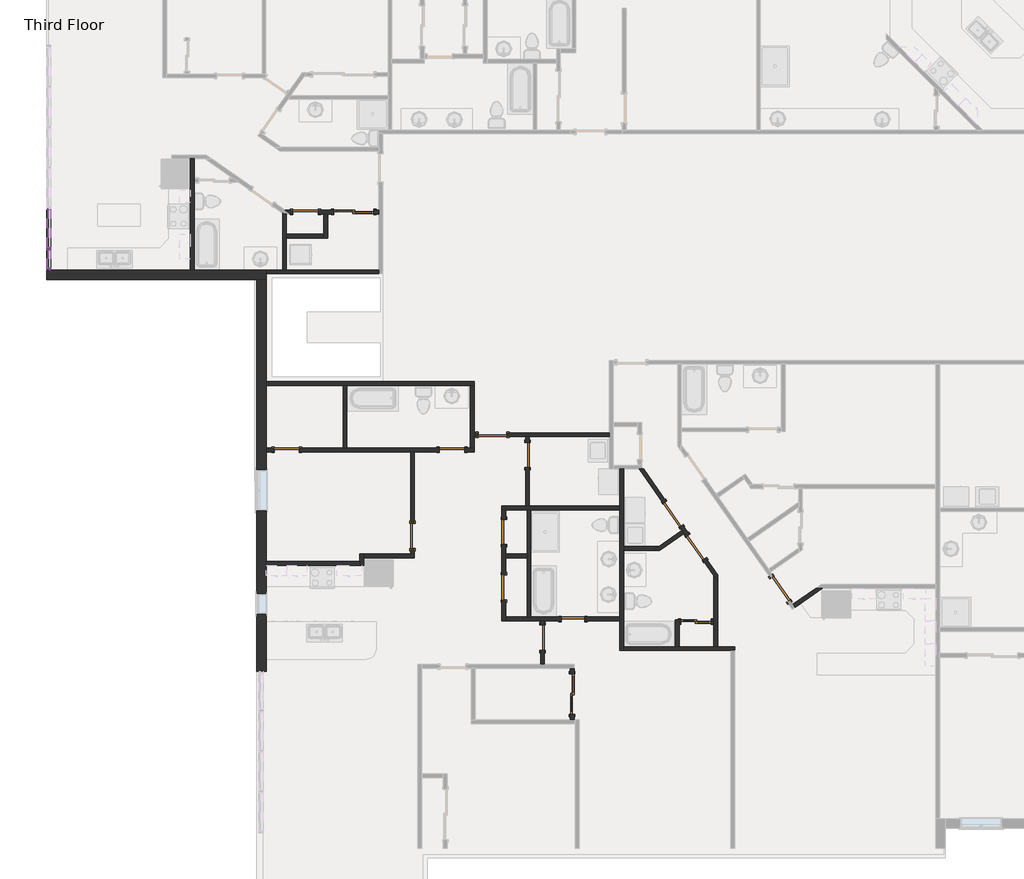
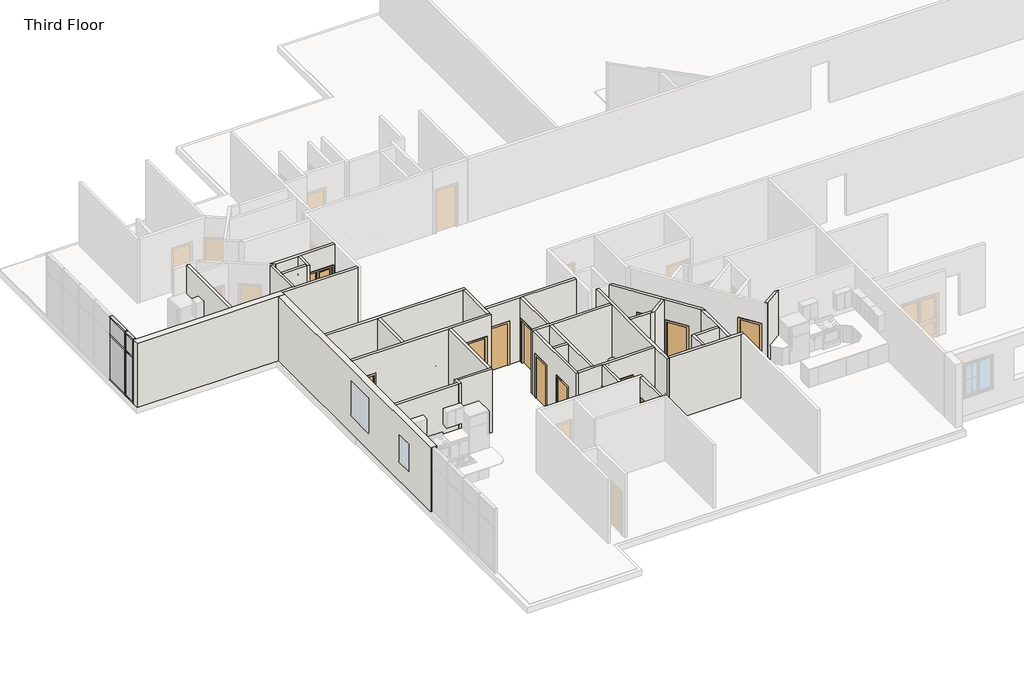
# One storey, part 2 of 17: 34 walls, 16 doors, 10 members, 4 plates.
"""IFC4 building model written with IfcOpenShell, lengths in millimetres."""

from ifc_helpers import new_model, si_unit, frame, origin, place, context, project, spatial, polyline, outline, extrude, faceted_brep, transform, mapped, element, save
from components import door_2d0eeab4, door_d8f5dbb5, door_f2b275c1, door_825b8444, door_c29894e6, door_88c23cd7, door_900f836f, rectangular_mullion_rectangular_mullion_1_fa3625a1, rectangular_mullion_rectangular_mullion_1_7cbf0b94, rectangular_mullion_rectangular_mullion_1_6186cc23, rectangular_mullion_rectangular_mullion_1_049a2e78, rectangular_mullion_rectangular_mullion_1_a50b3cda, rectangular_mullion_rectangular_mullion_1_5cd4c5ac, rectangular_mullion_rectangular_mullion_1_5f94ee87, rectangular_mullion_rectangular_mullion_1_01ab8f87, system_panel_glazed_0ed27d1d, system_panel_glazed_134bacdb, system_panel_glazed_08691960, system_panel_glazed_359e7c1e

model = new_model("IFC4")

# Units and contexts
model_context = context("Model", 3, world=origin())
ifc_project = project(units=[si_unit("LENGTHUNIT", "METRE", prefix="MILLI")], contexts=[model_context])

# Site, building, storey
site = spatial("IfcSite", under=ifc_project)
building = spatial("IfcBuilding", under=site)
storey = spatial("IfcBuildingStorey", under=building, Name="Third Floor", Elevation=6096.0)

# Doors
placement = place(None, origin())
door_shape = door_2d0eeab4(model_context)
element("IfcDoor", 1, ObjectType="Single-Flush : 28\" x 80\"", at=placement, inside=storey, context=model_context, shape_type="MappedRepresentation", body=[
    mapped(door_shape, transform((16422.928371, -12394.3493344, 6096.0), x_axis=(-1.0, 0.0, 0.0), y_axis=(0.0, -1.0, 0.0), z_axis=(0.0, 0.0, 1.0))),
])
door_2_shape = door_d8f5dbb5(model_context)
element("IfcDoor", 2, ObjectType="Single-Flush : 30\" x 80\"", at=placement, inside=storey, context=model_context, shape_type="MappedRepresentation", body=[
    mapped(door_2_shape, transform((12779.9561509, -7293.7212391, 6096.0), x_axis=(1.0, 0.0, 0.0), y_axis=(0.0, 1.0, 0.0), z_axis=(0.0, 0.0, 1.0))),
])
element("IfcDoor", 3, ObjectType="Single-Flush : 30\" x 80\"", at=placement, inside=storey, context=model_context, shape_type="MappedRepresentation", body=[
    mapped(door_2_shape, transform((14339.6754984, -9769.6379528, 6096.0), x_axis=(0.0, 1.0, 0.0), y_axis=(-1.0, 0.0, 0.0), z_axis=(0.0, 0.0, 1.0))),
])
door_3_shape = door_f2b275c1(model_context)
element("IfcDoor", 4, ObjectType="Single-Flush : 30\" x 80\"", at=placement, inside=storey, context=model_context, shape_type="MappedRepresentation", body=[
    mapped(door_3_shape, transform((8359.613642, -116.1297775, 6096.0), x_axis=(-1.0, 0.0, 0.0), y_axis=(0.0, -1.0, 0.0), z_axis=(0.0, 0.0, 1.0))),
])
element("IfcDoor", 5, ObjectType="Single-Flush : 30\" x 80\"", at=placement, inside=storey, context=model_context, shape_type="MappedRepresentation", body=[
    mapped(door_3_shape, transform((15056.22709, -7446.1212391, 6096.0), x_axis=(0.0, 1.0, 0.0), y_axis=(-1.0, 0.0, 0.0), z_axis=(0.0, 0.0, 1.0))),
])
element("IfcDoor", 6, ObjectType="Single-Flush : 30\" x 80\"", at=placement, inside=storey, context=model_context, shape_type="MappedRepresentation", body=[
    mapped(door_3_shape, transform((11582.8058728, -9888.1265712, 6096.0), x_axis=(0.0, -1.0, 0.0), y_axis=(1.0, 0.0, 0.0), z_axis=(0.0, 0.0, 1.0))),
])
element("IfcDoor", 7, ObjectType="Single-Flush : 30\" x 80\"", at=placement, inside=storey, context=model_context, shape_type="MappedRepresentation", body=[
    mapped(door_3_shape, transform((7791.0581159, -7293.7212391, 6096.0), x_axis=(-1.0, 0.0, 0.0), y_axis=(0.0, -1.0, 0.0), z_axis=(0.0, 0.0, 1.0))),
])
element("IfcDoor", 8, ObjectType="Single-Flush : 30\" x 80\"", at=placement, inside=storey, context=model_context, shape_type="MappedRepresentation", body=[
    mapped(door_3_shape, transform((14339.6754984, -11446.0379528, 6096.0), x_axis=(0.0, -1.0, 0.0), y_axis=(1.0, 0.0, 0.0), z_axis=(0.0, 0.0, 1.0))),
])
element("IfcDoor", 9, ObjectType="Single-Flush : 30\" x 80\"", at=placement, inside=storey, context=model_context, shape_type="MappedRepresentation", body=[
    mapped(door_3_shape, transform((15508.528371, -12959.3282576, 6096.0), x_axis=(0.0, 1.0, 0.0), y_axis=(-1.0, 0.0, 0.0), z_axis=(0.0, 0.0, 1.0))),
])
door_4_shape = door_825b8444(model_context)
element("IfcDoor", 10, ObjectType="Single-Flush : 34\" x 80\"", at=placement, inside=storey, context=model_context, shape_type="MappedRepresentation", body=[
    mapped(door_4_shape, transform((19441.5762048, -9236.3622072, 6096.0), x_axis=(0.573576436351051, -0.8191520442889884, 0.0), y_axis=(0.8191520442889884, 0.573576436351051, 0.0), z_axis=(0.0, 0.0, 1.0))),
])
door_5_shape = door_c29894e6(model_context)
element("IfcDoor", 11, ObjectType="Single-Flush : 34\" x 80\"", at=placement, inside=storey, context=model_context, shape_type="MappedRepresentation", body=[
    mapped(door_5_shape, transform((22679.8832205, -11498.1076976, 6096.0), x_axis=(0.5735764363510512, -0.8191520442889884, 0.0), y_axis=(0.8191520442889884, 0.5735764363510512, 0.0), z_axis=(0.0, 0.0, 1.0))),
])
element("IfcDoor", 12, ObjectType="Single-Flush : 34\" x 80\"", at=placement, inside=storey, context=model_context, shape_type="MappedRepresentation", body=[
    mapped(door_5_shape, transform((20140.880596, -10235.0723796, 6096.0), x_axis=(-0.573576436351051, 0.8191520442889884, 0.0), y_axis=(-0.8191520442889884, -0.573576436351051, 0.0), z_axis=(0.0, 0.0, 1.0))),
])
element("IfcDoor", 13, ObjectType="Single-Flush : 34\" x 80\"", at=placement, inside=storey, context=model_context, shape_type="MappedRepresentation", body=[
    mapped(door_5_shape, transform((13999.1561509, -6836.5212391, 6096.0), x_axis=(-1.0, 0.0, 0.0), y_axis=(0.0, -1.0, 0.0), z_axis=(0.0, 0.0, 1.0))),
])
door_6_shape = door_88c23cd7(model_context)
element("IfcDoor", 14, ObjectType="Sliding-Closet : 36\" x 80\"", at=placement, inside=storey, context=model_context, shape_type="MappedRepresentation", body=[
    mapped(door_6_shape, transform((20139.3524328, -12607.5204597, 6096.0), x_axis=(1.0, 0.0, 0.0), y_axis=(0.0, 1.0, 0.0), z_axis=(0.0, 0.0, 1.0))),
])
door_7_shape = door_900f836f(model_context)
element("IfcDoor", 15, ObjectType="Sliding-Closet : 48\" x 80\"", at=placement, inside=storey, context=model_context, shape_type="MappedRepresentation", body=[
    mapped(door_7_shape, transform((9813.633999, -243.1297775, 6096.0), x_axis=(1.0, 0.0, 0.0), y_axis=(0.0, 1.0, 0.0), z_axis=(0.0, 0.0, 1.0))),
])
element("IfcDoor", 16, ObjectType="Sliding-Closet : 48\" x 80\"", at=placement, inside=storey, context=model_context, shape_type="MappedRepresentation", body=[
    mapped(door_7_shape, transform((16274.860372, -14663.3427377, 6096.0), x_axis=(0.0, -1.0, 0.0), y_axis=(1.0, 0.0, 0.0), z_axis=(0.0, 0.0, 1.0))),
])

# Members
rectangular_mullion_rectangular_mullion_1_shape = rectangular_mullion_rectangular_mullion_1_fa3625a1(model_context)
element("IfcMember", 17, ObjectType="Rectangular Mullion : Rectangular Mullion 1", at=placement, inside=storey, context=model_context, shape_type="MappedRepresentation", body=[
    mapped(rectangular_mullion_rectangular_mullion_1_shape, transform((612.3831159, -1182.2572154, 9144.0), x_axis=(0.0, 0.0, 1.0), y_axis=(-1.0, 0.0, 0.0), z_axis=(0.0, -1.0, 0.0))),
])
element("IfcMember", 18, ObjectType="Rectangular Mullion : Rectangular Mullion 1", at=placement, inside=storey, context=model_context, shape_type="MappedRepresentation", body=[
    mapped(rectangular_mullion_rectangular_mullion_1_shape, transform((612.3831159, -26.5572154, 6096.0), x_axis=(0.0, 0.0, -1.0), y_axis=(-1.0, 0.0, 0.0), z_axis=(0.0, 1.0, 0.0))),
])
rectangular_mullion_rectangular_mullion_1_2_shape = rectangular_mullion_rectangular_mullion_1_7cbf0b94(model_context)
element("IfcMember", 19, ObjectType="Rectangular Mullion : Rectangular Mullion 1", at=placement, inside=storey, context=model_context, shape_type="MappedRepresentation", body=[
    mapped(rectangular_mullion_rectangular_mullion_1_2_shape, transform((612.3831159, -1182.2572154, 8261.35), x_axis=(0.0, 0.0, 1.0), y_axis=(-1.0, 0.0, 0.0), z_axis=(0.0, -1.0, 0.0))),
])
rectangular_mullion_rectangular_mullion_1_3_shape = rectangular_mullion_rectangular_mullion_1_6186cc23(model_context)
element("IfcMember", 20, ObjectType="Rectangular Mullion : Rectangular Mullion 1", at=placement, inside=storey, context=model_context, shape_type="MappedRepresentation", body=[
    mapped(rectangular_mullion_rectangular_mullion_1_3_shape, transform((612.3831159, -1214.0072154, 6096.0), x_axis=(0.0, -1.0, 0.0), y_axis=(-1.0, 0.0, 0.0), z_axis=(0.0, 0.0, -1.0))),
])
rectangular_mullion_rectangular_mullion_1_4_shape = rectangular_mullion_rectangular_mullion_1_049a2e78(model_context)
element("IfcMember", 21, ObjectType="Rectangular Mullion : Rectangular Mullion 1", at=placement, inside=storey, context=model_context, shape_type="MappedRepresentation", body=[
    mapped(rectangular_mullion_rectangular_mullion_1_4_shape, transform((612.3831159, -1214.0072154, 8261.35), x_axis=(0.0, -1.0, 0.0), y_axis=(-1.0, 0.0, 0.0), z_axis=(0.0, 0.0, -1.0))),
])
rectangular_mullion_rectangular_mullion_1_5_shape = rectangular_mullion_rectangular_mullion_1_a50b3cda(model_context)
element("IfcMember", 22, ObjectType="Rectangular Mullion : Rectangular Mullion 1", at=placement, inside=storey, context=model_context, shape_type="MappedRepresentation", body=[
    mapped(rectangular_mullion_rectangular_mullion_1_5_shape, transform((612.3831159, -1864.031369, 6096.0), x_axis=(0.0, -1.0, 0.0), y_axis=(-1.0, 0.0, 0.0), z_axis=(0.0, 0.0, -1.0))),
])
rectangular_mullion_rectangular_mullion_1_6_shape = rectangular_mullion_rectangular_mullion_1_5cd4c5ac(model_context)
element("IfcMember", 23, ObjectType="Rectangular Mullion : Rectangular Mullion 1", at=placement, inside=storey, context=model_context, shape_type="MappedRepresentation", body=[
    mapped(rectangular_mullion_rectangular_mullion_1_6_shape, transform((612.3831159, -1864.031369, 8261.35), x_axis=(0.0, -1.0, 0.0), y_axis=(-1.0, 0.0, 0.0), z_axis=(0.0, 0.0, -1.0))),
])
rectangular_mullion_rectangular_mullion_1_7_shape = rectangular_mullion_rectangular_mullion_1_5f94ee87(model_context)
element("IfcMember", 24, ObjectType="Rectangular Mullion : Rectangular Mullion 1", at=placement, inside=storey, context=model_context, shape_type="MappedRepresentation", body=[
    mapped(rectangular_mullion_rectangular_mullion_1_7_shape, transform((612.3831159, -1800.531369, 9144.0), x_axis=(0.0, 0.0, 1.0), y_axis=(-1.0, 0.0, 0.0), z_axis=(0.0, -1.0, 0.0))),
])
element("IfcMember", 25, ObjectType="Rectangular Mullion : Rectangular Mullion 1", at=placement, inside=storey, context=model_context, shape_type="MappedRepresentation", body=[
    mapped(rectangular_mullion_rectangular_mullion_1_7_shape, transform((612.3831159, -1245.7572154, 6096.0), x_axis=(0.0, 0.0, -1.0), y_axis=(-1.0, 0.0, 0.0), z_axis=(0.0, 1.0, 0.0))),
])
rectangular_mullion_rectangular_mullion_1_8_shape = rectangular_mullion_rectangular_mullion_1_01ab8f87(model_context)
element("IfcMember", 26, ObjectType="Rectangular Mullion : Rectangular Mullion 1", at=placement, inside=storey, context=model_context, shape_type="MappedRepresentation", body=[
    mapped(rectangular_mullion_rectangular_mullion_1_8_shape, transform((612.3831159, -1800.531369, 8261.35), x_axis=(0.0, 0.0, 1.0), y_axis=(-1.0, 0.0, 0.0), z_axis=(0.0, -1.0, 0.0))),
])

# Plates
system_panel_glazed_shape = system_panel_glazed_0ed27d1d(model_context)
element("IfcPlate", 27, ObjectType="System Panel : Glazed", at=placement, inside=storey, context=model_context, shape_type="MappedRepresentation", body=[
    mapped(system_panel_glazed_shape, transform((612.3831159, -604.4072154, 6159.5), x_axis=(0.0, -1.0, 0.0), y_axis=(1.0, 0.0, 0.0), z_axis=(0.0, 0.0, 1.0))),
])
system_panel_glazed_2_shape = system_panel_glazed_134bacdb(model_context)
element("IfcPlate", 28, ObjectType="System Panel : Glazed", at=placement, inside=storey, context=model_context, shape_type="MappedRepresentation", body=[
    mapped(system_panel_glazed_2_shape, transform((612.3831159, -604.4072154, 8293.1), x_axis=(0.0, -1.0, 0.0), y_axis=(1.0, 0.0, 0.0), z_axis=(0.0, 0.0, 1.0))),
])
system_panel_glazed_3_shape = system_panel_glazed_08691960(model_context)
element("IfcPlate", 29, ObjectType="System Panel : Glazed", at=placement, inside=storey, context=model_context, shape_type="MappedRepresentation", body=[
    mapped(system_panel_glazed_3_shape, transform((612.3831159, -1523.1442922, 6159.5), x_axis=(0.0, -1.0, 0.0), y_axis=(1.0, 0.0, 0.0), z_axis=(0.0, 0.0, 1.0))),
])
system_panel_glazed_4_shape = system_panel_glazed_359e7c1e(model_context)
element("IfcPlate", 30, ObjectType="System Panel : Glazed", at=placement, inside=storey, context=model_context, shape_type="MappedRepresentation", body=[
    mapped(system_panel_glazed_4_shape, transform((612.3831159, -1523.1442922, 8293.1), x_axis=(0.0, -1.0, 0.0), y_axis=(1.0, 0.0, 0.0), z_axis=(0.0, 0.0, 1.0))),
])

# Walls
element("IfcWall", 31, ObjectType="Exterior - Brick on Wood Stud", at=placement, inside=storey, context=model_context, shape_type="Brep", body=[
    faceted_brep([(7170.3456159, -13981.3871067, 6096.0), (7170.3456159, -10775.0993344, 6096.0), (7170.3456159, -10660.7993344, 6096.0), (7170.3456159, -7350.8712391, 6096.0), (7170.3456159, -7236.5712391, 6096.0), (7170.3456159, -5351.7371067, 6096.0), (7170.3456159, -5237.4371067, 6096.0), (7170.3456159, -2146.606369, 6096.0), (7170.3456159, -2146.606369, 9144.0), (7170.3456159, -5237.4371067, 9144.0), (7170.3456159, -5351.7371067, 9144.0), (7170.3456159, -7236.5712391, 9144.0), (7170.3456159, -7350.8712391, 9144.0), (7170.3456159, -10660.7993344, 9144.0), (7170.3456159, -10775.0993344, 9144.0), (7170.3456159, -13981.3871067, 9144.0), (7170.3456159, -7903.3212391, 8534.4), (7170.3456159, -7903.3212391, 7010.4), (7170.3456159, -9122.5212391, 7010.4), (7170.3456159, -9122.5212391, 8534.4), (7170.3456159, -11632.3493344, 8229.6), (7170.3456159, -11632.3493344, 7010.4), (7170.3456159, -12241.9493344, 7010.4), (7170.3456159, -12241.9493344, 8229.6), (6887.7706159, -13981.3871067, 6096.0), (6887.7706159, -13981.3871067, 9144.0), (6887.7706159, -2146.606369, 9144.0), (6887.7706159, -2146.606369, 6096.0), (6887.7706159, -7903.3212391, 8534.4), (6887.7706159, -9122.5212391, 8534.4), (6887.7706159, -9122.5212391, 7010.4), (6887.7706159, -7903.3212391, 7010.4), (6887.7706159, -11632.3493344, 8229.6), (6887.7706159, -12241.9493344, 8229.6), (6887.7706159, -12241.9493344, 7010.4), (6887.7706159, -11632.3493344, 7010.4)], [[[0, 1, 2, 3, 4, 5, 6, 7, 8, 9, 10, 11, 12, 13, 14, 15], [16, 17, 18, 19], [20, 21, 22, 23]], [[24, 25, 26, 27], [28, 29, 30, 31], [32, 33, 34, 35]], [[7, 6, 5, 4, 3, 2, 1, 0, 24, 27]], [[15, 14, 13, 12, 11, 10, 9, 8, 26, 25]], [[0, 15, 25, 24]], [[17, 16, 28, 31]], [[18, 17, 31, 30]], [[19, 18, 30, 29]], [[16, 19, 29, 28]], [[21, 20, 32, 35]], [[22, 21, 35, 34]], [[23, 22, 34, 33]], [[20, 23, 33, 32]], [[8, 7, 27, 26]]]),
])
element("IfcWall", 32, ObjectType="Exterior - Brick on Wood Stud", at=placement, inside=storey, context=model_context, shape_type="Brep", body=[
    faceted_brep([(548.8831159, -2146.606369, 6096.0), (6887.7706159, -2146.606369, 6096.0), (7170.3456159, -2146.606369, 6096.0), (7170.3456159, -2146.606369, 9144.0), (6887.7706159, -2146.606369, 9144.0), (548.8831159, -2146.606369, 9144.0), (548.8831159, -1864.031369, 6096.0), (548.8831159, -1864.031369, 9144.0), (4880.7003923, -1864.031369, 9144.0), (4995.0003923, -1864.031369, 9144.0), (7170.3456159, -1864.031369, 9144.0), (7170.3456159, -1864.031369, 6096.0), (4995.0003923, -1864.031369, 6096.0), (4880.7003923, -1864.031369, 6096.0), (7170.3456159, -1978.331369, 6096.0), (7170.3456159, -1978.331369, 9144.0)], [[[0, 1, 2, 3, 4, 5]], [[6, 7, 8, 9, 10, 11, 12, 13]], [[2, 1, 0, 6, 13, 12, 11, 14]], [[5, 4, 3, 15, 10, 9, 8, 7]], [[0, 5, 7, 6]], [[3, 2, 14, 11, 10, 15]]]),
])
element("IfcWall", 33, ObjectType="Interior - 4 1/2\" Partition", at=placement, inside=storey, context=model_context, shape_type="Brep", body=[
    faceted_brep([(4995.0003923, -1864.031369, 6096.0), (4995.0003923, 782.2685137, 6096.0), (4995.0003923, 896.5685137, 6096.0), (4995.0003923, 1493.4685137, 6096.0), (4995.0003923, 1493.4685137, 9144.0), (4995.0003923, 896.5685137, 9144.0), (4995.0003923, 782.2685137, 9144.0), (4995.0003923, -1864.031369, 9144.0), (4880.7003923, -1864.031369, 6096.0), (4880.7003923, -1864.031369, 9144.0), (4880.7003923, 1493.4685137, 9144.0), (4880.7003923, 1493.4685137, 6096.0)], [[[0, 1, 2, 3, 4, 5, 6, 7]], [[8, 9, 10, 11]], [[3, 2, 1, 0, 8, 11]], [[7, 6, 5, 4, 10, 9]], [[0, 7, 9, 8]], [[4, 3, 11, 10]]]),
])
element("IfcWall", 34, ObjectType="Interior - 4 1/2\" Partition", at=placement, inside=storey, context=model_context, shape_type="Brep", body=[
    faceted_brep([(10569.283999, -173.2797775, 9144.0), (9026.363642, -173.2797775, 9144.0), (8912.063642, -173.2797775, 9144.0), (7905.870285, -173.2797775, 9144.0), (7905.870285, -173.2797775, 6096.0), (7978.613642, -173.2797775, 6096.0), (7978.613642, -173.2797775, 8128.0), (8740.613642, -173.2797775, 8128.0), (8740.613642, -173.2797775, 6096.0), (8912.063642, -173.2797775, 6096.0), (9026.363642, -173.2797775, 6096.0), (9204.033999, -173.2797775, 6096.0), (9204.033999, -173.2797775, 8128.0), (10423.233999, -173.2797775, 8128.0), (10423.233999, -173.2797775, 6096.0), (10569.283999, -173.2797775, 6096.0), (7742.6329678, -58.9797775, 9144.0), (10569.283999, -58.9797775, 9144.0), (10569.283999, -58.9797775, 6096.0), (10423.233999, -58.9797775, 6096.0), (10423.233999, -58.9797775, 8128.0), (9204.033999, -58.9797775, 8128.0), (9204.033999, -58.9797775, 6096.0), (8740.613642, -58.9797775, 6096.0), (8740.613642, -58.9797775, 8128.0), (7978.613642, -58.9797775, 8128.0), (7978.613642, -58.9797775, 6096.0), (7742.6329678, -58.9797775, 6096.0)], [[[0, 1, 2, 3, 4, 5, 6, 7, 8, 9, 10, 11, 12, 13, 14, 15]], [[16, 17, 18, 19, 20, 21, 22, 23, 24, 25, 26, 27]], [[26, 5, 4, 27]], [[8, 23, 22, 11, 10, 9]], [[18, 15, 14, 19]], [[3, 2, 1, 0, 17, 16]], [[6, 5, 26, 25]], [[7, 6, 25, 24]], [[8, 7, 24, 23]], [[21, 12, 11, 22]], [[12, 21, 20, 13]], [[13, 20, 19, 14]], [[4, 3, 16, 27]], [[0, 15, 18, 17]]]),
])
element("IfcWall", 35, ObjectType="Interior - 4 1/2\" Partition", at=placement, inside=storey, context=model_context, shape_type="Brep", body=[
    faceted_brep([(7667.463642, -145.8801844, 6096.0), (7667.463642, -1864.031369, 6096.0), (7667.463642, -1864.031369, 9144.0), (7667.463642, -145.8801844, 9144.0), (7781.763642, -173.2797775, 6096.0), (7781.763642, -173.2797775, 9144.0), (7781.763642, -783.946226, 9144.0), (7781.763642, -898.246226, 9144.0), (7781.763642, -1864.031369, 9144.0), (7781.763642, -1864.031369, 6096.0), (7781.763642, -898.246226, 6096.0), (7781.763642, -783.946226, 6096.0), (7706.5943163, -173.2797775, 6096.0), (7706.5943163, -173.2797775, 9144.0)], [[[0, 1, 2, 3]], [[4, 5, 6, 7, 8, 9, 10, 11]], [[1, 0, 12, 4, 11, 10, 9]], [[3, 2, 8, 7, 6, 5, 13]], [[2, 1, 9, 8]], [[0, 3, 13, 12]], [[13, 5, 4, 12]]]),
])
element("IfcWall", 36, ObjectType="Interior - 4 1/2\" Partition", at=placement, inside=storey, context=model_context, shape_type="Brep", body=[
    faceted_brep([(8912.063642, -173.2797775, 6096.0), (8912.063642, -783.946226, 6096.0), (8912.063642, -898.246226, 6096.0), (8912.063642, -898.246226, 9144.0), (8912.063642, -783.946226, 9144.0), (8912.063642, -173.2797775, 9144.0), (9026.363642, -173.2797775, 6096.0), (9026.363642, -173.2797775, 9144.0), (9026.363642, -898.246226, 9144.0), (9026.363642, -898.246226, 6096.0)], [[[0, 1, 2, 3, 4, 5]], [[6, 7, 8, 9]], [[2, 1, 0, 6, 9]], [[5, 4, 3, 8, 7]], [[3, 2, 9, 8]], [[0, 5, 7, 6]]]),
])
element("IfcWall", 37, ObjectType="Interior - 4 1/2\" Partition", at=placement, inside=storey, context=model_context, shape_type="SweptSolid", body=[
    extrude(outline(polyline([(7781.763642, -783.946226), (8912.063642, -783.946226), (8912.063642, -898.246226), (7781.763642, -898.246226), (7781.763642, -783.946226)])), frame((0.0, 0.0, 6096.0), z_axis=(0.0, 0.0, 1.0), x_axis=(1.0, 0.0, 0.0)), (0.0, 0.0, 1.0), 3048.0),
])
element("IfcWall", 38, ObjectType="Interior - 4 1/2\" Partition", at=placement, inside=storey, context=model_context, shape_type="Brep", body=[
    faceted_brep([(7170.3456159, -5351.7371067, 6096.0), (9494.3397027, -5351.7371067, 6096.0), (9608.6397027, -5351.7371067, 6096.0), (13332.4061509, -5351.7371067, 6096.0), (13446.7061509, -5351.7371067, 6096.0), (13446.7061509, -5351.7371067, 9144.0), (13332.4061509, -5351.7371067, 9144.0), (9608.6397027, -5351.7371067, 9144.0), (9494.3397027, -5351.7371067, 9144.0), (7170.3456159, -5351.7371067, 9144.0), (7170.3456159, -5237.4371067, 6096.0), (7170.3456159, -5237.4371067, 9144.0), (13446.7061509, -5237.4371067, 9144.0), (13446.7061509, -5237.4371067, 6096.0)], [[[0, 1, 2, 3, 4, 5, 6, 7, 8, 9]], [[10, 11, 12, 13]], [[4, 3, 2, 1, 0, 10, 13]], [[9, 8, 7, 6, 5, 12, 11]], [[5, 4, 13, 12]], [[0, 9, 11, 10]]]),
])
element("IfcWall", 39, ObjectType="Interior - 4 1/2\" Partition", at=placement, inside=storey, context=model_context, shape_type="Brep", body=[
    faceted_brep([(13332.4061509, -5351.7371067, 6096.0), (13332.4061509, -7236.5712391, 6096.0), (13332.4061509, -7236.5712391, 9144.0), (13332.4061509, -5351.7371067, 9144.0), (13446.7061509, -5351.7371067, 6096.0), (13446.7061509, -5351.7371067, 9144.0), (13446.7061509, -6779.3712391, 9144.0), (13446.7061509, -6893.6712391, 9144.0), (13446.7061509, -7236.5712391, 9144.0), (13446.7061509, -7236.5712391, 6096.0), (13446.7061509, -6893.6712391, 6096.0), (13446.7061509, -6779.3712391, 6096.0)], [[[0, 1, 2, 3]], [[4, 5, 6, 7, 8, 9, 10, 11]], [[1, 0, 4, 11, 10, 9]], [[3, 2, 8, 7, 6, 5]], [[2, 1, 9, 8]], [[0, 3, 5, 4]]]),
])
element("IfcWall", 40, ObjectType="Interior - 4 1/2\" Partition", at=placement, inside=storey, context=model_context, shape_type="Brep", body=[
    faceted_brep([(13446.7061509, -6893.6712391, 6096.0), (13567.3561509, -6893.6712391, 6096.0), (13567.3561509, -6893.6712391, 8128.0), (14430.9561509, -6893.6712391, 8128.0), (14430.9561509, -6893.6712391, 6096.0), (14999.07709, -6893.6712391, 6096.0), (15113.37709, -6893.6712391, 6096.0), (17521.3916991, -6893.6712391, 6096.0), (17521.3916991, -6893.6712391, 9144.0), (15113.37709, -6893.6712391, 9144.0), (14999.07709, -6893.6712391, 9144.0), (13446.7061509, -6893.6712391, 9144.0), (13567.3561509, -6779.3712391, 8128.0), (13567.3561509, -6779.3712391, 6096.0), (13446.7061509, -6779.3712391, 6096.0), (13446.7061509, -6779.3712391, 9144.0), (17521.3916991, -6779.3712391, 9144.0), (17521.3916991, -6779.3712391, 6096.0), (14430.9561509, -6779.3712391, 6096.0), (14430.9561509, -6779.3712391, 8128.0)], [[[0, 1, 2, 3, 4, 5, 6, 7, 8, 9, 10, 11]], [[12, 13, 14, 15, 16, 17, 18, 19]], [[18, 17, 7, 6, 5, 4]], [[14, 13, 1, 0]], [[11, 10, 9, 8, 16, 15]], [[2, 1, 13, 12]], [[3, 2, 12, 19]], [[4, 3, 19, 18]], [[8, 7, 17, 16]], [[0, 11, 15, 14]]]),
])
element("IfcWall", 41, ObjectType="Interior - 4 1/2\" Partition", at=placement, inside=storey, context=model_context, shape_type="Brep", body=[
    faceted_brep([(17837.7191338, -7873.4719726, 6096.0), (17837.7191338, -8984.3993344, 6096.0), (17837.7191338, -9098.6993344, 6096.0), (17837.7191338, -12337.1993344, 6096.0), (17837.7191338, -12451.4993344, 6096.0), (17837.7191338, -13350.4704597, 6096.0), (17837.7191338, -13350.4704597, 9144.0), (17837.7191338, -12451.4993344, 9144.0), (17837.7191338, -12337.1993344, 9144.0), (17837.7191338, -9098.6993344, 9144.0), (17837.7191338, -8984.3993344, 9144.0), (17837.7191338, -7873.4719726, 9144.0), (17952.0191338, -7873.4719726, 6096.0), (17952.0191338, -7873.4719726, 9144.0), (17952.0191338, -10214.0460393, 9144.0), (17952.0191338, -10328.3460393, 9144.0), (17952.0191338, -13236.1704597, 9144.0), (17952.0191338, -13350.4704597, 9144.0), (17952.0191338, -13350.4704597, 6096.0), (17952.0191338, -13236.1704597, 6096.0), (17952.0191338, -10328.3460393, 6096.0), (17952.0191338, -10214.0460393, 6096.0)], [[[0, 1, 2, 3, 4, 5, 6, 7, 8, 9, 10, 11]], [[12, 13, 14, 15, 16, 17, 18, 19, 20, 21]], [[5, 4, 3, 2, 1, 0, 12, 21, 20, 19, 18]], [[11, 10, 9, 8, 7, 6, 17, 16, 15, 14, 13]], [[6, 5, 18, 17]], [[0, 11, 13, 12]]]),
])
element("IfcWall", 42, ObjectType="Interior - 4 1/2\" Partition", at=placement, inside=storey, context=model_context, shape_type="Brep", body=[
    faceted_brep([(17952.0191338, -13350.4704597, 6096.0), (21185.6615862, -13350.4704597, 6096.0), (21299.9615862, -13350.4704597, 6096.0), (21299.9615862, -13350.4704597, 9144.0), (21185.6615862, -13350.4704597, 9144.0), (17952.0191338, -13350.4704597, 9144.0), (17952.0191338, -13236.1704597, 6096.0), (17952.0191338, -13236.1704597, 9144.0), (19511.69036, -13236.1704597, 9144.0), (19625.99036, -13236.1704597, 9144.0), (20678.1145056, -13236.1704597, 9144.0), (20792.4145056, -13236.1704597, 9144.0), (21299.9615862, -13236.1704597, 9144.0), (21299.9615862, -13236.1704597, 6096.0), (20792.4145056, -13236.1704597, 6096.0), (20678.1145056, -13236.1704597, 6096.0), (19625.99036, -13236.1704597, 6096.0), (19511.69036, -13236.1704597, 6096.0)], [[[0, 1, 2, 3, 4, 5]], [[6, 7, 8, 9, 10, 11, 12, 13, 14, 15, 16, 17]], [[2, 1, 0, 6, 17, 16, 15, 14, 13]], [[5, 4, 3, 12, 11, 10, 9, 8, 7]], [[3, 2, 13, 12]], [[0, 5, 7, 6]]]),
])
element("IfcWall", 43, ObjectType="Interior - 4 1/2\" Partition", at=placement, inside=storey, context=model_context, shape_type="SweptSolid", body=[
    extrude(outline(polyline([(-15272.9427377, 8128.0), (-15272.9427377, 6096.0), (-15440.4282946, 6096.0), (-15440.4282946, 9144.0), (-13886.2571807, 9144.0), (-13886.2571807, 6096.0), (-14053.7427377, 6096.0), (-14053.7427377, 8128.0), (-15272.9427377, 8128.0)])), frame((16344.710372, 0.0, 0.0), z_axis=(1.0, 0.0, 0.0), x_axis=(0.0, 1.0, 0.0)), (0.0, 0.0, 1.0), 114.3),
])
element("IfcWall", 44, ObjectType="Interior - 4 1/2\" Partition", at=placement, inside=storey, context=model_context, shape_type="Brep", body=[
    faceted_brep([(17837.7191338, -8984.3993344, 6096.0), (15113.37709, -8984.3993344, 6096.0), (14999.07709, -8984.3993344, 6096.0), (14282.5254984, -8984.3993344, 6096.0), (14282.5254984, -8984.3993344, 9144.0), (14999.07709, -8984.3993344, 9144.0), (15113.37709, -8984.3993344, 9144.0), (17837.7191338, -8984.3993344, 9144.0), (17837.7191338, -9098.6993344, 6096.0), (17837.7191338, -9098.6993344, 9144.0), (15157.82709, -9098.6993344, 9144.0), (15043.52709, -9098.6993344, 9144.0), (14396.8254984, -9098.6993344, 9144.0), (14282.5254984, -9098.6993344, 9144.0), (14282.5254984, -9098.6993344, 6096.0), (14396.8254984, -9098.6993344, 6096.0), (15043.52709, -9098.6993344, 6096.0), (15157.82709, -9098.6993344, 6096.0)], [[[0, 1, 2, 3, 4, 5, 6, 7]], [[8, 9, 10, 11, 12, 13, 14, 15, 16, 17]], [[3, 2, 1, 0, 8, 17, 16, 15, 14]], [[7, 6, 5, 4, 13, 12, 11, 10, 9]], [[4, 3, 14, 13]], [[0, 7, 9, 8]]]),
])
element("IfcWall", 45, ObjectType="Interior - 4 1/2\" Partition", at=placement, inside=storey, context=model_context, shape_type="SweptSolid", body=[
    extrude(outline(polyline([(-6893.6712391, 6096.0), (-7065.1212391, 6096.0), (-7065.1212391, 8128.0), (-7827.1212391, 8128.0), (-7827.1212391, 6096.0), (-8984.3993344, 6096.0), (-8984.3993344, 9144.0), (-6893.6712391, 9144.0), (-6893.6712391, 6096.0)])), frame((14999.07709, 0.0, 0.0), z_axis=(1.0, 0.0, 0.0), x_axis=(0.0, 1.0, 0.0)), (0.0, 0.0, 1.0), 114.3),
])
element("IfcWall", 46, ObjectType="Interior - 4 1/2\" Partition", at=placement, inside=storey, context=model_context, shape_type="Brep", body=[
    faceted_brep([(14282.5254984, -11827.0379528, 8128.0), (14282.5254984, -11827.0379528, 6096.0), (14282.5254984, -12451.4993344, 6096.0), (14282.5254984, -12451.4993344, 9144.0), (14282.5254984, -9098.6993344, 9144.0), (14282.5254984, -9098.6993344, 6096.0), (14282.5254984, -9388.6379528, 6096.0), (14282.5254984, -9388.6379528, 8128.0), (14282.5254984, -10150.6379528, 8128.0), (14282.5254984, -10150.6379528, 6096.0), (14282.5254984, -11065.0379528, 6096.0), (14282.5254984, -11065.0379528, 8128.0), (14396.8254984, -12451.4993344, 6096.0), (14396.8254984, -12337.1993344, 6096.0), (14396.8254984, -11827.0379528, 6096.0), (14396.8254984, -11827.0379528, 8128.0), (14396.8254984, -11065.0379528, 8128.0), (14396.8254984, -11065.0379528, 6096.0), (14396.8254984, -10554.8765712, 6096.0), (14396.8254984, -10440.5765712, 6096.0), (14396.8254984, -10150.6379528, 6096.0), (14396.8254984, -10150.6379528, 8128.0), (14396.8254984, -9388.6379528, 8128.0), (14396.8254984, -9388.6379528, 6096.0), (14396.8254984, -9098.6993344, 6096.0), (14396.8254984, -9098.6993344, 9144.0), (14396.8254984, -10440.5765712, 9144.0), (14396.8254984, -10554.8765712, 9144.0), (14396.8254984, -12337.1993344, 9144.0), (14396.8254984, -12451.4993344, 9144.0)], [[[0, 1, 2, 3, 4, 5, 6, 7, 8, 9, 10, 11]], [[12, 13, 14, 15, 16, 17, 18, 19, 20, 21, 22, 23, 24, 25, 26, 27, 28, 29]], [[24, 23, 6, 5]], [[10, 9, 20, 19, 18, 17]], [[2, 1, 14, 13, 12]], [[4, 3, 29, 28, 27, 26, 25]], [[7, 6, 23, 22]], [[8, 7, 22, 21]], [[9, 8, 21, 20]], [[15, 14, 1, 0]], [[16, 15, 0, 11]], [[17, 16, 11, 10]], [[3, 2, 12, 29]], [[5, 4, 25, 24]]]),
])
element("IfcWall", 47, ObjectType="Interior - 4 1/2\" Partition", at=placement, inside=storey, context=model_context, shape_type="Brep", body=[
    faceted_brep([(14396.8254984, -12451.4993344, 6096.0), (15451.378371, -12451.4993344, 6096.0), (15565.678371, -12451.4993344, 6096.0), (16067.328371, -12451.4993344, 6096.0), (16067.328371, -12451.4993344, 8128.0), (16778.528371, -12451.4993344, 8128.0), (16778.528371, -12451.4993344, 6096.0), (17837.7191338, -12451.4993344, 6096.0), (17837.7191338, -12451.4993344, 9144.0), (15565.678371, -12451.4993344, 9144.0), (15451.378371, -12451.4993344, 9144.0), (14396.8254984, -12451.4993344, 9144.0), (16067.328371, -12337.1993344, 8128.0), (16067.328371, -12337.1993344, 6096.0), (15157.82709, -12337.1993344, 6096.0), (15043.52709, -12337.1993344, 6096.0), (14396.8254984, -12337.1993344, 6096.0), (14396.8254984, -12337.1993344, 9144.0), (15043.52709, -12337.1993344, 9144.0), (15157.82709, -12337.1993344, 9144.0), (17837.7191338, -12337.1993344, 9144.0), (17837.7191338, -12337.1993344, 6096.0), (16778.528371, -12337.1993344, 6096.0), (16778.528371, -12337.1993344, 8128.0)], [[[0, 1, 2, 3, 4, 5, 6, 7, 8, 9, 10, 11]], [[12, 13, 14, 15, 16, 17, 18, 19, 20, 21, 22, 23]], [[22, 21, 7, 6]], [[16, 15, 14, 13, 3, 2, 1, 0]], [[11, 10, 9, 8, 20, 19, 18, 17]], [[4, 3, 13, 12]], [[5, 4, 12, 23]], [[6, 5, 23, 22]], [[0, 11, 17, 16]], [[8, 7, 21, 20]]]),
])
element("IfcWall", 48, ObjectType="Interior - 4 1/2\" Partition", at=placement, inside=storey, context=model_context, shape_type="Brep", body=[
    faceted_brep([(15043.52709, -9098.6993344, 6096.0), (15043.52709, -10440.5765712, 6096.0), (15043.52709, -10554.8765712, 6096.0), (15043.52709, -12337.1993344, 6096.0), (15043.52709, -12337.1993344, 9144.0), (15043.52709, -10554.8765712, 9144.0), (15043.52709, -10440.5765712, 9144.0), (15043.52709, -9098.6993344, 9144.0), (15157.82709, -9098.6993344, 6096.0), (15157.82709, -9098.6993344, 9144.0), (15157.82709, -12337.1993344, 9144.0), (15157.82709, -12337.1993344, 6096.0)], [[[0, 1, 2, 3, 4, 5, 6, 7]], [[8, 9, 10, 11]], [[3, 2, 1, 0, 8, 11]], [[7, 6, 5, 4, 10, 9]], [[4, 3, 11, 10]], [[0, 7, 9, 8]]]),
])
element("IfcWall", 49, ObjectType="Interior - 4 1/2\" Partition", at=placement, inside=storey, context=model_context, shape_type="Brep", body=[
    faceted_brep([(7170.3456159, -7350.8712391, 6096.0), (7410.0581159, -7350.8712391, 6096.0), (7410.0581159, -7350.8712391, 8128.0), (8172.0581159, -7350.8712391, 8128.0), (8172.0581159, -7350.8712391, 6096.0), (11525.6558728, -7350.8712391, 6096.0), (11639.9558728, -7350.8712391, 6096.0), (12398.9561509, -7350.8712391, 6096.0), (12398.9561509, -7350.8712391, 8128.0), (13160.9561509, -7350.8712391, 8128.0), (13160.9561509, -7350.8712391, 6096.0), (13446.7061509, -7350.8712391, 6096.0), (13446.7061509, -7350.8712391, 9144.0), (11639.9558728, -7350.8712391, 9144.0), (11525.6558728, -7350.8712391, 9144.0), (7170.3456159, -7350.8712391, 9144.0), (7410.0581159, -7236.5712391, 8128.0), (7410.0581159, -7236.5712391, 6096.0), (7170.3456159, -7236.5712391, 6096.0), (7170.3456159, -7236.5712391, 9144.0), (9494.3397027, -7236.5712391, 9144.0), (9608.6397027, -7236.5712391, 9144.0), (13332.4061509, -7236.5712391, 9144.0), (13446.7061509, -7236.5712391, 9144.0), (13446.7061509, -7236.5712391, 6096.0), (13332.4061509, -7236.5712391, 6096.0), (13160.9561509, -7236.5712391, 6096.0), (13160.9561509, -7236.5712391, 8128.0), (12398.9561509, -7236.5712391, 8128.0), (12398.9561509, -7236.5712391, 6096.0), (9608.6397027, -7236.5712391, 6096.0), (9494.3397027, -7236.5712391, 6096.0), (8172.0581159, -7236.5712391, 6096.0), (8172.0581159, -7236.5712391, 8128.0)], [[[0, 1, 2, 3, 4, 5, 6, 7, 8, 9, 10, 11, 12, 13, 14, 15]], [[16, 17, 18, 19, 20, 21, 22, 23, 24, 25, 26, 27, 28, 29, 30, 31, 32, 33]], [[11, 10, 26, 25, 24]], [[18, 17, 1, 0]], [[32, 31, 30, 29, 7, 6, 5, 4]], [[15, 14, 13, 12, 23, 22, 21, 20, 19]], [[27, 26, 10, 9]], [[28, 27, 9, 8]], [[29, 28, 8, 7]], [[2, 1, 17, 16]], [[3, 2, 16, 33]], [[4, 3, 33, 32]], [[12, 11, 24, 23]], [[0, 15, 19, 18]]]),
])
element("IfcWall", 50, ObjectType="Interior - 4 1/2\" Partition", at=placement, inside=storey, context=model_context, shape_type="SweptSolid", body=[
    extrude(outline(polyline([(9608.6397027, -5351.7371067), (9608.6397027, -7236.5712391), (9494.3397027, -7236.5712391), (9494.3397027, -5351.7371067), (9608.6397027, -5351.7371067)])), frame((0.0, 0.0, 6096.0), z_axis=(0.0, 0.0, 1.0), x_axis=(1.0, 0.0, 0.0)), (0.0, 0.0, 1.0), 3048.0),
])
element("IfcWall", 51, ObjectType="Interior - 4 1/2\" Partition", at=placement, inside=storey, context=model_context, shape_type="SweptSolid", body=[
    extrude(outline(polyline([(10001.6558728, -10775.0993344), (7170.3456159, -10775.0993344), (7170.3456159, -10660.7993344), (10001.6558728, -10660.7993344), (10001.6558728, -10775.0993344)])), frame((0.0, 0.0, 6096.0), z_axis=(0.0, 0.0, 1.0), x_axis=(1.0, 0.0, 0.0)), (0.0, 0.0, 1.0), 3048.0),
])
element("IfcWall", 52, ObjectType="Interior - 4 1/2\" Partition", at=placement, inside=storey, context=model_context, shape_type="Brep", body=[
    faceted_brep([(10115.9558728, -10775.0993344, 6096.0), (10115.9558728, -10554.8765712, 6096.0), (10115.9558728, -10440.5765712, 6096.0), (10115.9558728, -10440.5765712, 9144.0), (10115.9558728, -10554.8765712, 9144.0), (10115.9558728, -10775.0993344, 9144.0), (10001.6558728, -10775.0993344, 6096.0), (10001.6558728, -10775.0993344, 9144.0), (10001.6558728, -10660.7993344, 9144.0), (10001.6558728, -10440.5765712, 9144.0), (10001.6558728, -10440.5765712, 6096.0), (10001.6558728, -10660.7993344, 6096.0)], [[[0, 1, 2, 3, 4, 5]], [[6, 7, 8, 9, 10, 11]], [[2, 1, 0, 6, 11, 10]], [[5, 4, 3, 9, 8, 7]], [[3, 2, 10, 9]], [[0, 5, 7, 6]]]),
])
element("IfcWall", 53, ObjectType="Interior - 4 1/2\" Partition", at=placement, inside=storey, context=model_context, shape_type="Brep", body=[
    faceted_brep([(10115.9558728, -10554.8765712, 6096.0), (11639.9558728, -10554.8765712, 6096.0), (11639.9558728, -10554.8765712, 9144.0), (10115.9558728, -10554.8765712, 9144.0), (10115.9558728, -10440.5765712, 6096.0), (10115.9558728, -10440.5765712, 9144.0), (11525.6558728, -10440.5765712, 9144.0), (11639.9558728, -10440.5765712, 9144.0), (11639.9558728, -10440.5765712, 6096.0), (11525.6558728, -10440.5765712, 6096.0)], [[[0, 1, 2, 3]], [[4, 5, 6, 7, 8, 9]], [[1, 0, 4, 9, 8]], [[3, 2, 7, 6, 5]], [[2, 1, 8, 7]], [[0, 3, 5, 4]]]),
])
element("IfcWall", 54, ObjectType="Interior - 4 1/2\" Partition", at=placement, inside=storey, context=model_context, shape_type="SweptSolid", body=[
    extrude(outline(polyline([(-10269.1265712, 8128.0), (-10269.1265712, 6096.0), (-10440.5765712, 6096.0), (-10440.5765712, 9144.0), (-7350.8712391, 9144.0), (-7350.8712391, 6096.0), (-9507.1265712, 6096.0), (-9507.1265712, 8128.0), (-10269.1265712, 8128.0)])), frame((11525.6558728, 0.0, 0.0), z_axis=(1.0, 0.0, 0.0), x_axis=(0.0, 1.0, 0.0)), (0.0, 0.0, 1.0), 114.3),
])
element("IfcWall", 55, ObjectType="Interior - 4 1/2\" Partition", at=placement, inside=storey, context=model_context, shape_type="Brep", body=[
    faceted_brep([(19642.4319707, -9622.8519533, 8128.0), (19642.4319707, -9622.8519533, 6096.0), (19711.6339677, -9721.6826474, 6096.0), (19777.1937544, -9815.3117261, 6096.0), (19846.3957514, -9914.1424202, 6096.0), (19846.3957514, -9914.1424202, 8128.0), (20341.7363619, -10621.5621257, 8128.0), (20341.7363619, -10621.5621257, 6096.0), (20678.1145056, -11101.9599012, 6096.0), (20792.4145056, -11265.1972184, 6096.0), (20792.4145056, -11265.1972184, 9144.0), (20678.1145056, -11101.9599012, 9144.0), (19777.1937544, -9815.3117261, 9144.0), (19711.6339677, -9721.6826474, 9144.0), (18417.502921, -7873.4719726, 9144.0), (18417.502921, -7873.4719726, 6096.0), (19147.0913602, -8915.4322478, 6096.0), (19147.0913602, -8915.4322478, 8128.0), (19940.0248301, -9848.5826336, 6096.0), (19736.0610493, -9557.2921666, 6096.0), (19736.0610493, -9557.2921666, 8128.0), (19240.7204389, -8849.8724612, 8128.0), (19240.7204389, -8849.8724612, 6096.0), (18557.0374565, -7873.4719726, 6096.0), (18557.0374565, -7873.4719726, 9144.0), (20792.4145056, -11065.9212497, 9144.0), (20792.4145056, -11065.9212497, 6096.0), (20435.3654405, -10556.002339, 6096.0), (20435.3654405, -10556.002339, 8128.0), (19940.0248301, -9848.5826336, 8128.0)], [[[0, 1, 2, 3, 4, 5, 6, 7, 8, 9, 10, 11, 12, 13, 14, 15, 16, 17]], [[18, 19, 20, 21, 22, 23, 24, 25, 26, 27, 28, 29]], [[27, 26, 9, 8, 7]], [[16, 15, 23, 22]], [[4, 3, 2, 1, 19, 18]], [[14, 13, 12, 11, 10, 25, 24]], [[5, 4, 18, 29]], [[6, 5, 29, 28]], [[7, 6, 28, 27]], [[20, 19, 1, 0]], [[21, 20, 0, 17]], [[22, 21, 17, 16]], [[10, 9, 26, 25]], [[15, 14, 24, 23]]]),
])
element("IfcWall", 56, ObjectType="Interior - 4 1/2\" Partition", at=placement, inside=storey, context=model_context, shape_type="Brep", body=[
    faceted_brep([(20678.1145056, -11101.9599012, 6096.0), (20678.1145056, -12423.3704597, 6096.0), (20678.1145056, -12537.6704597, 6096.0), (20678.1145056, -13236.1704597, 6096.0), (20678.1145056, -13236.1704597, 9144.0), (20678.1145056, -12537.6704597, 9144.0), (20678.1145056, -12423.3704597, 9144.0), (20678.1145056, -11101.9599012, 9144.0), (20792.4145056, -11265.1972184, 6096.0), (20792.4145056, -11265.1972184, 9144.0), (20792.4145056, -13236.1704597, 9144.0), (20792.4145056, -13236.1704597, 6096.0)], [[[0, 1, 2, 3, 4, 5, 6, 7]], [[8, 9, 10, 11]], [[3, 2, 1, 0, 8, 11]], [[7, 6, 5, 4, 10, 9]], [[0, 7, 9, 8]], [[4, 3, 11, 10]]]),
])
element("IfcWall", 57, ObjectType="Interior - 4 1/2\" Partition", at=placement, inside=storey, context=model_context, shape_type="Brep", body=[
    faceted_brep([(19711.6339677, -9721.6826474, 6096.0), (19008.466171, -10214.0460393, 6096.0), (18845.2288539, -10328.3460393, 6096.0), (18845.2288539, -10328.3460393, 9144.0), (19008.466171, -10214.0460393, 9144.0), (19711.6339677, -9721.6826474, 9144.0), (19777.1937544, -9815.3117261, 6096.0), (19777.1937544, -9815.3117261, 9144.0), (19044.5048226, -10328.3460393, 9144.0), (19044.5048226, -10328.3460393, 6096.0)], [[[0, 1, 2, 3, 4, 5]], [[6, 7, 8, 9]], [[2, 1, 0, 6, 9]], [[5, 4, 3, 8, 7]], [[3, 2, 9, 8]], [[0, 5, 7, 6]]]),
])
element("IfcWall", 58, ObjectType="Interior - 4 1/2\" Partition", at=placement, inside=storey, context=model_context, shape_type="SweptSolid", body=[
    extrude(outline(polyline([(17952.0191338, -10214.0460393), (19008.466171, -10214.0460393), (18845.2288539, -10328.3460393), (17952.0191338, -10328.3460393), (17952.0191338, -10214.0460393)])), frame((0.0, 0.0, 6096.0), z_axis=(0.0, 0.0, 1.0), x_axis=(1.0, 0.0, 0.0)), (0.0, 0.0, 1.0), 3048.0),
])
element("IfcWall", 59, ObjectType="Interior - 4 1/2\" Partition", at=placement, inside=storey, context=model_context, shape_type="SweptSolid", body=[
    extrude(outline(polyline([(23064.1529803, -11947.2638046), (23747.2935405, -11468.9236347), (23946.5695093, -11468.9236347), (23129.712767, -12040.8928833), (23064.1529803, -11947.2638046)])), frame((0.0, 0.0, 6096.0), z_axis=(0.0, 0.0, 1.0), x_axis=(1.0, 0.0, 0.0)), (0.0, 0.0, 1.0), 3048.0),
])
element("IfcWall", 60, ObjectType="Interior - 4 1/2\" Partition", at=placement, inside=storey, context=model_context, shape_type="SweptSolid", body=[
    extrude(outline(polyline([(14396.8254984, -10440.5765712), (15043.52709, -10440.5765712), (15043.52709, -10554.8765712), (14396.8254984, -10554.8765712), (14396.8254984, -10440.5765712)])), frame((0.0, 0.0, 6096.0), z_axis=(0.0, 0.0, 1.0), x_axis=(1.0, 0.0, 0.0)), (0.0, 0.0, 1.0), 3048.0),
])
element("IfcWall", 61, ObjectType="Interior - 4 1/2\" Partition", at=placement, inside=storey, context=model_context, shape_type="SweptSolid", body=[
    extrude(outline(polyline([(-12451.4993344, 6096.0), (-12578.3282576, 6096.0), (-12578.3282576, 8128.0), (-13340.3282576, 8128.0), (-13340.3282576, 6096.0), (-13771.9571807, 6096.0), (-13771.9571807, 9144.0), (-12451.4993344, 9144.0), (-12451.4993344, 6096.0)])), frame((15451.378371, 0.0, 0.0), z_axis=(1.0, 0.0, 0.0), x_axis=(0.0, 1.0, 0.0)), (0.0, 0.0, 1.0), 114.3),
])
element("IfcWall", 62, ObjectType="Interior - 4 1/2\" Partition", at=placement, inside=storey, context=model_context, shape_type="Brep", body=[
    faceted_brep([(19625.99036, -13236.1704597, 6096.0), (19625.99036, -12537.6704597, 6096.0), (19625.99036, -12423.3704597, 6096.0), (19625.99036, -12423.3704597, 9144.0), (19625.99036, -12537.6704597, 9144.0), (19625.99036, -13236.1704597, 9144.0), (19511.69036, -13236.1704597, 6096.0), (19511.69036, -13236.1704597, 9144.0), (19511.69036, -12423.3704597, 9144.0), (19511.69036, -12423.3704597, 6096.0)], [[[0, 1, 2, 3, 4, 5]], [[6, 7, 8, 9]], [[2, 1, 0, 6, 9]], [[5, 4, 3, 8, 7]], [[3, 2, 9, 8]], [[0, 5, 7, 6]]]),
])
element("IfcWall", 63, ObjectType="Interior - 4 1/2\" Partition", at=placement, inside=storey, context=model_context, shape_type="SweptSolid", body=[
    extrude(outline(polyline([(8128.0, 20596.5524328), (6096.0, 20596.5524328), (6096.0, 20678.1145056), (9144.0, 20678.1145056), (9144.0, 19625.99036), (6096.0, 19625.99036), (6096.0, 19682.1524328), (8128.0, 19682.1524328), (8128.0, 20596.5524328)])), frame((0.0, -12537.6704597, 0.0), z_axis=(0.0, 1.0, 0.0), x_axis=(0.0, 0.0, 1.0)), (0.0, 0.0, 1.0), 114.3),
])
element("IfcWall", 64, ObjectType="Interior - 4 1/2\" Partition", at=placement, inside=storey, context=model_context, shape_type="Brep", body=[
    faceted_brep([(7170.3456159, -1978.331369, 6096.0), (10569.283999, -1978.331369, 6096.0), (10569.283999, -1978.331369, 9144.0), (7170.3456159, -1978.331369, 9144.0), (7170.3456159, -1864.031369, 6096.0), (7170.3456159, -1864.031369, 9144.0), (7667.463642, -1864.031369, 9144.0), (7781.763642, -1864.031369, 9144.0), (10569.283999, -1864.031369, 9144.0), (10569.283999, -1864.031369, 6096.0), (7781.763642, -1864.031369, 6096.0), (7667.463642, -1864.031369, 6096.0)], [[[0, 1, 2, 3]], [[4, 5, 6, 7, 8, 9, 10, 11]], [[1, 0, 4, 11, 10, 9]], [[3, 2, 8, 7, 6, 5]], [[0, 3, 5, 4]], [[2, 1, 9, 8]]]),
])

save(model, "model.ifc")
